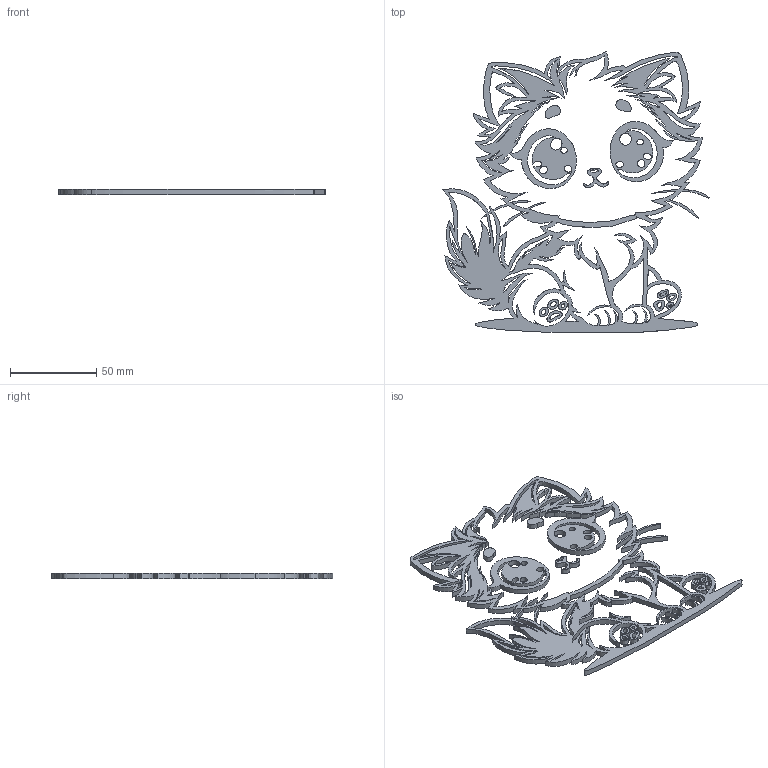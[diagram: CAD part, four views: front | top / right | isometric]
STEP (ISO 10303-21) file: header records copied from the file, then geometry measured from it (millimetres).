
FILE_DESCRIPTION(('STEP AP214'),'1');
FILE_NAME('4.stp','2026-07-04T12:59:48',(' '),(' '),'Spatial InterOp 3D',' ',' ');
FILE_SCHEMA(('AUTOMOTIVE_DESIGN { 1 0 10303 214 1 1 1 1 }'));
Length unit declared in the file: metre
Products named in the file (15): 1783172713; 1783172726; 1783172727; 1783172733; 1783172740; 1783172745; 1783172746; 1783172748; 1783172750; 1783172752; 1783172754; 1783172756; 1783172758; 1783172760; 1
Bounding box: 154.17 x 163.03 x 3 mm (x, y, z)
Volume: 24065.1 mm3; surface area: 33328.5 mm2
Topology: 14 solids, 14 shells, 382 faces, 1416 edges, 1062 vertices
Faces by surface type: extrusion 354, plane 28
Entity records: 26903 total; most frequent: CARTESIAN_POINT 13251, ORIENTED_EDGE 2104, B_SPLINE_CURVE_WITH_KNOTS 1360, EDGE_CURVE 1052, DIRECTION 784, VERTEX_POINT 708, VECTOR 698, STYLED_ITEM 524
